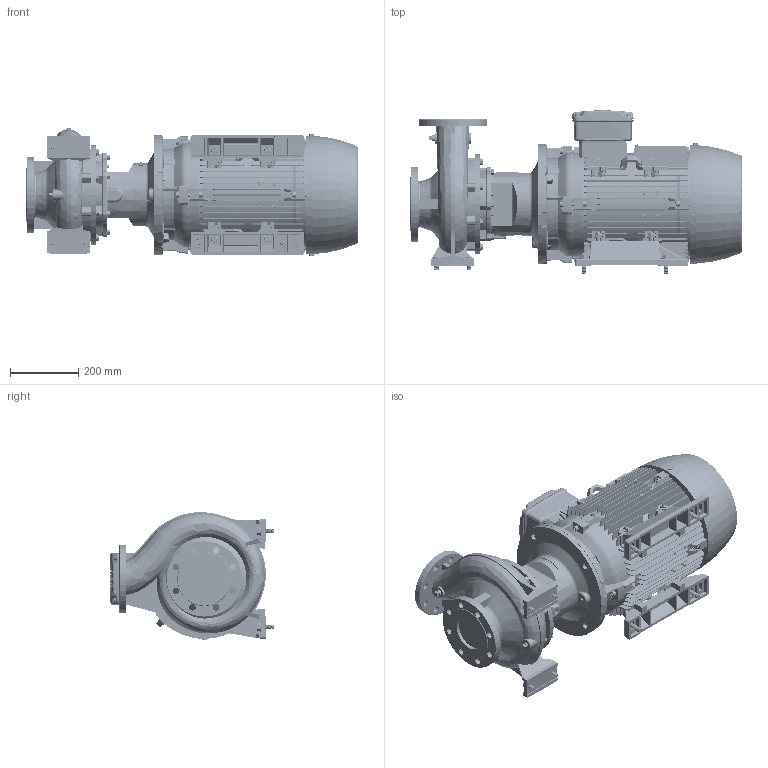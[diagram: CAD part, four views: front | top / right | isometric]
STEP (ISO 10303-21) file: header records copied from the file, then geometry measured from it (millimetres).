
FILE_DESCRIPTION (( 'STEP AP214' ), '1' );
FILE_NAME ('GSD2 80-200_22.0_(180ML)_W21.STEP', '2026-07-08T06:12:07', ( '' ), ( '' ), 'SwSTEP 2.0', 'SolidWorks 2024', '' );
FILE_SCHEMA (( 'AUTOMOTIVE_DESIGN' ));
Length unit declared in the file: millimetre
Products named in the file (8): Parametric bolt and washer_SFT-A299B; 180M_L ALIE3_W21T_B35; Parametric bolt and washer_SFT-A305B; Parametric bolt_SFT-A305B; Parametric Flat Washer_M12; GSD2  80-200_22.0_(180ML)_W21; 80-200-180M_L_ﾃﾞﾌｫﾙﾄ; Parametric bolt_SFT-A299B
Assembly tree (14 placements, depth 3):
  GSD2  80-200_22.0_(180ML)_W21
    80-200-180M_L_ﾃﾞﾌｫﾙﾄ
    Parametric bolt and washer_SFT-A299B  x4
      Parametric bolt_SFT-A299B
      Parametric Flat Washer_M12
    180M_L ALIE3_W21T_B35
    Parametric bolt and washer_SFT-A305B  x4
      Parametric bolt_SFT-A305B
      Parametric Flat Washer_M12
Bounding box: 969.8 x 477 x 373.17 mm (x, y, z)
Volume: 63559309.2 mm3; surface area: 3356760.4 mm2
Topology: 42 solids, 42 shells, 6310 faces, 16354 edges, 10579 vertices
Faces by surface type: plane 3797, cylinder 1150, cone 631, bspline 433, torus 283, sphere 16
Entity records: 224689 total; most frequent: CARTESIAN_POINT 85652, ORIENTED_EDGE 30672, DIRECTION 25816, EDGE_CURVE 15336, VERTEX_POINT 9928, VECTOR 9598, LINE 9598, AXIS2_PLACEMENT_3D 8109
